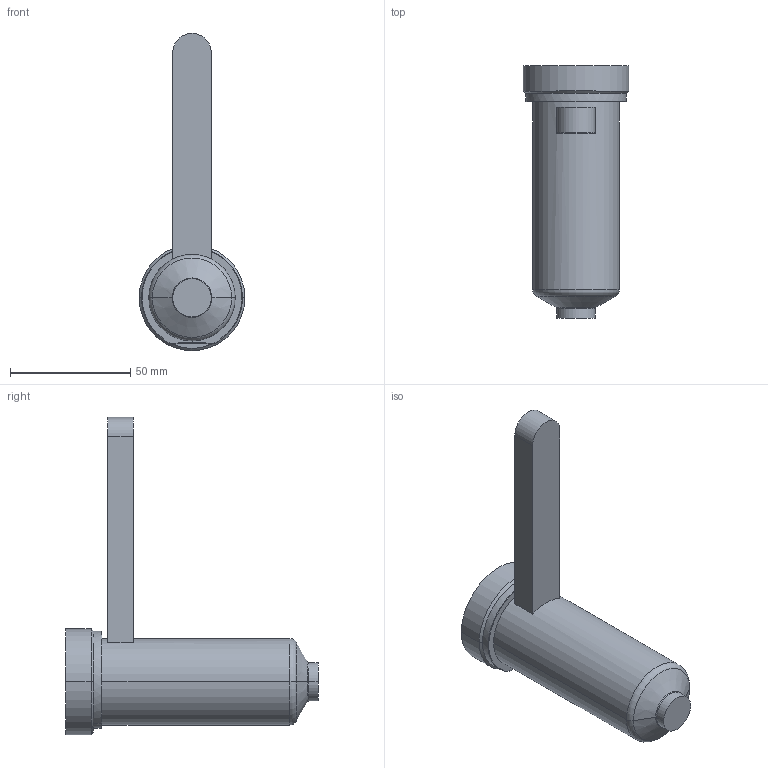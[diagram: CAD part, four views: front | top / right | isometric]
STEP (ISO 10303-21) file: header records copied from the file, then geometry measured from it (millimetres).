
FILE_DESCRIPTION((''),'2;1');
FILE_NAME('EO12_PG-FB_WR_090_COT','2024-02-19T11:39:01',('sundharh'),(''),'CREO PARAMETRIC BY PTC INC, 2023154','CREO PARAMETRIC BY PTC INC, 2023154','');
FILE_SCHEMA(('CONFIG_CONTROL_DESIGN'));
Length unit declared in the file: millimetre
Products named in the file (1): EO12_PG-FB_WR_090_COT
Bounding box: 44 x 105 x 132 mm (x, y, z)
Volume: 122855.5 mm3; surface area: 19142.2 mm2
Topology: 1 solids, 1 shells, 31 faces, 67 edges, 40 vertices
Faces by surface type: cylinder 11, plane 9, torus 7, cone 4
Entity records: 951 total; most frequent: CARTESIAN_POINT 218, DIRECTION 159, ORIENTED_EDGE 134, AXIS2_PLACEMENT_3D 67, EDGE_CURVE 67, VERTEX_POINT 40, CIRCLE 36, EDGE_LOOP 33
